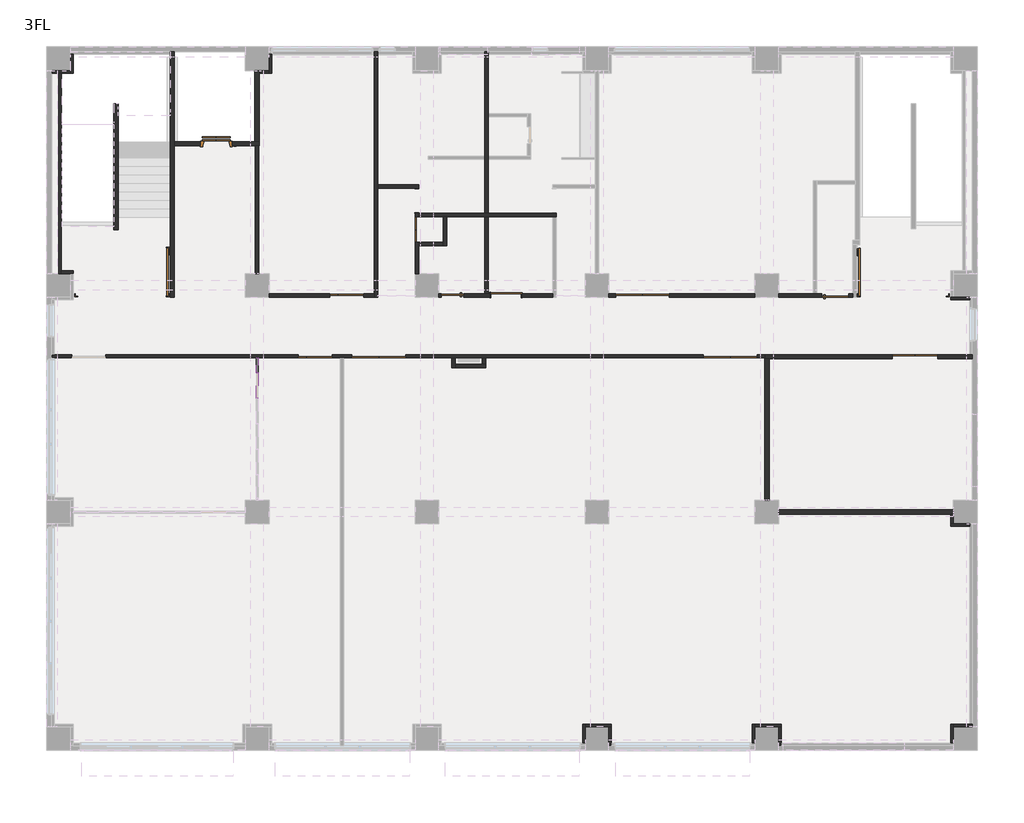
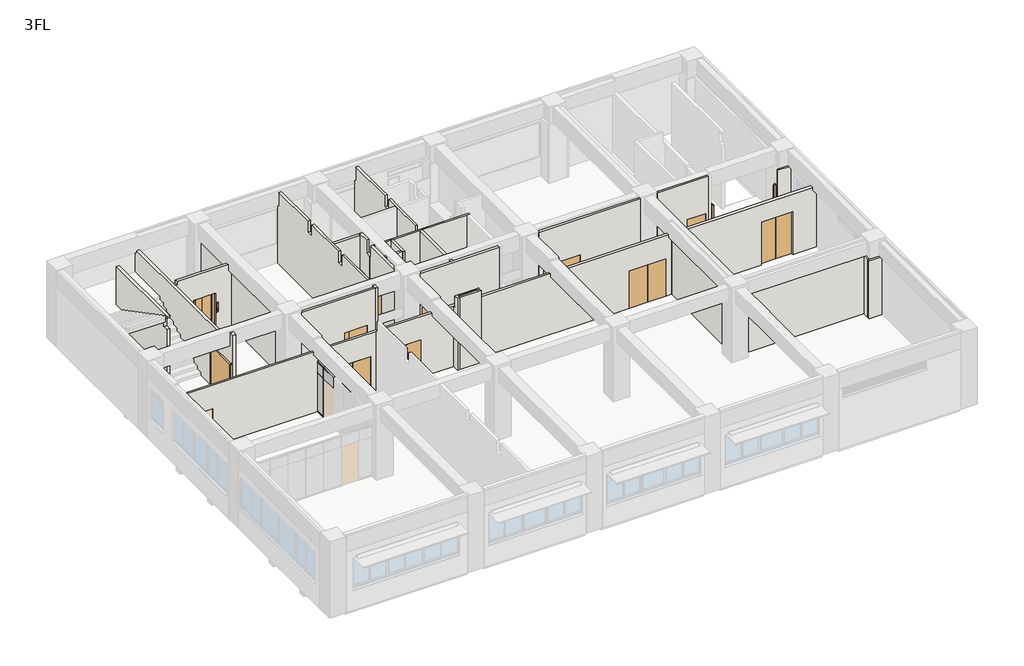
# One storey, part 2 of 6: 40 walls, 14 doors, 3 plates.
"""IFC4 building model written with IfcOpenShell, lengths in millimetres."""

from ifc_helpers import new_model, si_unit, frame, origin, place, context, project, spatial, polyline, outline, extrude, faceted_brep, transform, mapped, element, save
from components import door_c235f466, door_18b0804b, door_9fa6e922, door_14d6dc4f, door_dd0264bc, door_2816d948, door_f9cae23c, door_7458d189, door_0812e9ce, door_48d1ee04, sd12_bd36843f, sd13_d994cb3e, plate_95e3ff3d, plate_6b89f69e, plate_53a28b3e

model = new_model("IFC4")

# Units and contexts
model_context = context("Model", 3, world=origin())
ifc_project = project(units=[si_unit("LENGTHUNIT", "METRE", prefix="MILLI")], contexts=[model_context])

# Site, building, storey
site = spatial("IfcSite", under=ifc_project)
building = spatial("IfcBuilding", under=site)
storey = spatial("IfcBuildingStorey", under=building, Name="3FL", Elevation=8200.0)

# Doors
placement = place(None, origin())
door_shape = door_c235f466(model_context)
element("IfcDoor", 1, ObjectType="営_親子扉 : LD2 1200*2000", at=placement, inside=storey, context=model_context, shape_type="MappedRepresentation", body=[
    mapped(door_shape, transform((9060.0, 13500.0, 8200.0), x_axis=(1.0, 0.0, 0.0), y_axis=(0.0, 1.0, 0.0), z_axis=(0.0, 0.0, 1.0))),
])
door_2_shape = door_18b0804b(model_context)
element("IfcDoor", 2, ObjectType="営_親子扉 : LD2 1200*2000", at=placement, inside=storey, context=model_context, shape_type="MappedRepresentation", body=[
    mapped(door_2_shape, transform((10162.645491, 15640.0, 8200.0), x_axis=(1.0, 0.0, 0.0), y_axis=(0.0, 1.0, 0.0), z_axis=(0.0, 0.0, 1.0))),
])
door_3_shape = door_9fa6e922(model_context)
element("IfcDoor", 3, ObjectType="営_EVドア : EVドア", at=placement, inside=storey, context=model_context, shape_type="MappedRepresentation", body=[
    mapped(door_3_shape, transform((5560.0, 21000.0, 8200.0), x_axis=(1.0, 0.0, 0.0), y_axis=(0.0, 1.0, 0.0), z_axis=(0.0, 0.0, 1.0))),
])
door_4_shape = door_14d6dc4f(model_context)
element("IfcDoor", 4, ObjectType="営_三方枠 : S1_850*2000", at=placement, inside=storey, context=model_context, shape_type="MappedRepresentation", body=[
    mapped(door_4_shape, transform((12640.0, 18990.25, 8200.0), x_axis=(0.0, 1.0, 0.0), y_axis=(-1.0, 0.0, 0.0), z_axis=(0.0, 0.0, 1.0))),
])
door_5_shape = door_dd0264bc(model_context)
element("IfcDoor", 5, ObjectType="営_両開き扉 : SD3b 1600*2300", at=placement, inside=storey, context=model_context, shape_type="MappedRepresentation", body=[
    mapped(door_5_shape, transform((30235.0, 13480.0, 8200.0), x_axis=(1.0, 0.0, 0.0), y_axis=(0.0, 1.0, 0.0), z_axis=(0.0, 0.0, 1.0))),
])
door_6_shape = door_2816d948(model_context)
element("IfcDoor", 6, ObjectType="営_両開き扉 : LD4 1900*2000", at=placement, inside=storey, context=model_context, shape_type="MappedRepresentation", body=[
    mapped(door_6_shape, transform((20610.0, 15640.0, 8200.0), x_axis=(1.0, 0.0, 0.0), y_axis=(0.0, 1.0, 0.0), z_axis=(0.0, 0.0, 1.0))),
])
element("IfcDoor", 7, ObjectType="営_両開き扉 : LD4 1900*2000", at=placement, inside=storey, context=model_context, shape_type="MappedRepresentation", body=[
    mapped(door_6_shape, transform((11290.0, 13500.0, 8200.0), x_axis=(-1.0, 0.0, 0.0), y_axis=(0.0, -1.0, 0.0), z_axis=(0.0, 0.0, 1.0))),
])
element("IfcDoor", 8, ObjectType="営_両開き扉 : LD4 1900*2000", at=placement, inside=storey, context=model_context, shape_type="MappedRepresentation", body=[
    mapped(door_6_shape, transform((23710.0, 13500.0, 8200.0), x_axis=(-1.0, 0.0, 0.0), y_axis=(0.0, -1.0, 0.0), z_axis=(0.0, 0.0, 1.0))),
])
door_7_shape = door_f9cae23c(model_context)
element("IfcDoor", 9, ObjectType="営_両開き扉 : LD5 900*2000", at=placement, inside=storey, context=model_context, shape_type="MappedRepresentation", body=[
    mapped(door_7_shape, transform((12640.0, 17975.0, 8200.0), x_axis=(0.0, 1.0, 0.0), y_axis=(-1.0, 0.0, 0.0), z_axis=(0.0, 0.0, 1.0))),
])
door_8_shape = door_7458d189(model_context)
element("IfcDoor", 10, ObjectType="営_引戸／引込戸 : LD1 960*2000", at=placement, inside=storey, context=model_context, shape_type="MappedRepresentation", body=[
    mapped(door_8_shape, transform((15800.0, 15640.0, 8200.0), x_axis=(1.0, 0.0, 0.0), y_axis=(0.0, 1.0, 0.0), z_axis=(0.0, 0.0, 1.0))),
])
door_9_shape = door_0812e9ce(model_context)
element("IfcDoor", 11, ObjectType="営_片開き扉 : LD3 950*2000", at=placement, inside=storey, context=model_context, shape_type="MappedRepresentation", body=[
    mapped(door_9_shape, transform((27410.0, 15640.0, 8200.0), x_axis=(1.0, 0.0, 0.0), y_axis=(0.0, 1.0, 0.0), z_axis=(0.0, 0.0, 1.0))),
])
door_10_shape = door_48d1ee04(model_context)
element("IfcDoor", 12, ObjectType="営_片開き扉 : LD11 850*2000", at=placement, inside=storey, context=model_context, shape_type="MappedRepresentation", body=[
    mapped(door_10_shape, transform((13900.0, 15640.0, 8200.0), x_axis=(-1.0, 0.0, 0.0), y_axis=(0.0, -1.0, 0.0), z_axis=(0.0, 0.0, 1.0))),
])
sd12_shape = sd12_bd36843f(model_context)
element("IfcDoor", 13, ObjectType="営_随閉扉 B階段 2～4F : SD12", at=placement, inside=storey, context=model_context, shape_type="MappedRepresentation", body=[
    mapped(sd12_shape, transform((4000.0, 15640.0, 8200.0), x_axis=(0.0, -1.0, 0.0), y_axis=(1.0, 0.0, 0.0), z_axis=(0.0, 0.0, 1.0))),
])
sd13_shape = sd13_d994cb3e(model_context)
element("IfcDoor", 14, ObjectType="営_随閉扉 B階段 2～4F : SD13", at=placement, inside=storey, context=model_context, shape_type="MappedRepresentation", body=[
    mapped(sd13_shape, transform((28100.0, 15640.0, 8200.0), x_axis=(0.0, -1.0, 0.0), y_axis=(1.0, 0.0, 0.0), z_axis=(0.0, 0.0, 1.0))),
])

# Plates
plate_shape = plate_95e3ff3d(model_context)
element("IfcPlate", 15, ObjectType="営_パーティションパネル_下部 : パーティションパネル_下部", at=placement, inside=storey, context=model_context, shape_type="MappedRepresentation", body=[
    mapped(plate_shape, transform((7000.0, 13175.0000002, 8200.0), x_axis=(0.0, 1.0, 0.0), y_axis=(-1.0, 0.0, 0.0), z_axis=(0.0, 0.0, 1.0))),
])
plate_2_shape = plate_6b89f69e(model_context)
element("IfcPlate", 16, ObjectType="営_パーティションパネル_上部 : パーティションパネル_上部", at=placement, inside=storey, context=model_context, shape_type="MappedRepresentation", body=[
    mapped(plate_2_shape, transform((7000.0, 13175.0000002, 10300.0), x_axis=(0.0, 1.0, 0.0), y_axis=(-1.0, 0.0, 0.0), z_axis=(0.0, 0.0, 1.0))),
])
plate_3_shape = plate_53a28b3e(model_context)
element("IfcPlate", 17, ObjectType="営_パーティションパネル_上部 : パーティションパネル_上部", at=placement, inside=storey, context=model_context, shape_type="MappedRepresentation", body=[
    mapped(plate_3_shape, transform((7000.0, 12460.0000003, 10300.0), x_axis=(0.0, 1.0, 0.0), y_axis=(-1.0, 0.0, 0.0), z_axis=(0.0, 0.0, 1.0))),
])

# Walls
element("IfcWall", 18, ObjectType="(内壁)W3", at=placement, inside=storey, context=model_context, shape_type="Brep", body=[
    faceted_brep([(1655.0, 13440.0, 10200.0), (1655.0, 13440.0, 8200.0), (8460.0, 13440.0, 8200.0), (8460.0, 13440.0, 10200.0), (9660.0, 13440.0, 10200.0), (9660.0, 13440.0, 8200.0), (9940.0, 13440.0, 8200.0), (10060.0, 13440.0, 8200.0), (10340.0, 13440.0, 8200.0), (10340.0, 13440.0, 10200.0), (12240.0, 13440.0, 10200.0), (12240.0, 13440.0, 8200.0), (13870.0, 13440.0, 8200.0), (13990.0, 13440.0, 8200.0), (14950.0, 13440.0, 8200.0), (15070.0, 13440.0, 8200.0), (22760.0, 13440.0, 8200.0), (22760.0, 13440.0, 10200.0), (24660.0, 13440.0, 10200.0), (24660.0, 13440.0, 8200.0), (24925.0, 13440.0, 8200.0), (24925.0, 13440.0, 11300.0), (24775.0, 13440.0, 11300.0), (24775.0, 13440.0, 11450.0), (19225.0, 13440.0, 11450.0), (19225.0, 13440.0, 11300.0), (18775.0, 13440.0, 11300.0), (18775.0, 13440.0, 11450.0), (15070.0, 13440.0, 11450.0), (14950.0, 13440.0, 11450.0), (13990.0, 13440.0, 11450.0), (13870.0, 13440.0, 11450.0), (13225.0, 13440.0, 11450.0), (13225.0, 13440.0, 11300.0), (12775.0, 13440.0, 11300.0), (12775.0, 13440.0, 11450.0), (10060.0, 13440.0, 11450.0), (9940.0, 13440.0, 11450.0), (7225.0, 13440.0, 11450.0), (7225.0, 13440.0, 11300.0), (6775.0, 13440.0, 11300.0), (6775.0, 13440.0, 11450.0), (-50.0, 13440.0, 11450.0), (-50.0, 13440.0, 11300.0), (-160.0, 13440.0, 11300.0), (-250.0, 13440.0, 11300.0), (-250.0, 13440.0, 8200.0), (-160.0, 13440.0, 8200.0), (455.0, 13440.0, 8200.0), (455.0, 13440.0, 10200.0), (1655.0, 13560.0, 8200.0), (1655.0, 13560.0, 10200.0), (455.0, 13560.0, 10200.0), (455.0, 13560.0, 8200.0), (-160.0, 13560.0, 8200.0), (-250.0, 13560.0, 8200.0), (-250.0, 13560.0, 11300.0), (-160.0, 13560.0, 11300.0), (-50.0, 13560.0, 11300.0), (-50.0, 13560.0, 11450.0), (6775.0, 13560.0, 11450.0), (6775.0, 13560.0, 11300.0), (7225.0, 13560.0, 11300.0), (7225.0, 13560.0, 11450.0), (12775.0, 13560.0, 11450.0), (12775.0, 13560.0, 11300.0), (13225.0, 13560.0, 11300.0), (13225.0, 13560.0, 11450.0), (18775.0, 13560.0, 11450.0), (18775.0, 13560.0, 11300.0), (19225.0, 13560.0, 11300.0), (19225.0, 13560.0, 11450.0), (24775.0, 13560.0, 11450.0), (24775.0, 13560.0, 11300.0), (24925.0, 13560.0, 11300.0), (24925.0, 13560.0, 8200.0), (24660.0, 13560.0, 8200.0), (24660.0, 13560.0, 10200.0), (22760.0, 13560.0, 10200.0), (22760.0, 13560.0, 8200.0), (12240.0, 13560.0, 8200.0), (12240.0, 13560.0, 10200.0), (10340.0, 13560.0, 10200.0), (10340.0, 13560.0, 8200.0), (9660.0, 13560.0, 8200.0), (9660.0, 13560.0, 10200.0), (8460.0, 13560.0, 10200.0), (8460.0, 13560.0, 8200.0), (24925.0, 13555.0, 8200.0), (24925.0, 13555.0, 11300.0)], [[[0, 1, 2, 3, 4, 5, 6, 7, 8, 9, 10, 11, 12, 13, 14, 15, 16, 17, 18, 19, 20, 21, 22, 23, 24, 25, 26, 27, 28, 29, 30, 31, 32, 33, 34, 35, 36, 37, 38, 39, 40, 41, 42, 43, 44, 45, 46, 47, 48, 49]], [[50, 51, 52, 53, 54, 55, 56, 57, 58, 59, 60, 61, 62, 63, 64, 65, 66, 67, 68, 69, 70, 71, 72, 73, 74, 75, 76, 77, 78, 79, 80, 81, 82, 83, 84, 85, 86, 87]], [[1, 50, 87, 2]], [[5, 84, 83, 8, 7, 6]], [[11, 80, 79, 16, 15, 14, 13, 12]], [[19, 76, 75, 88, 20]], [[46, 55, 54, 53, 48, 47]], [[59, 42, 41, 60]], [[63, 38, 37, 36, 35, 64]], [[67, 32, 31, 30, 29, 28, 27, 68]], [[71, 24, 23, 72]], [[55, 46, 45, 56]], [[1, 0, 51, 50]], [[49, 48, 53, 52]], [[0, 49, 52, 51]], [[87, 86, 3, 2]], [[85, 84, 5, 4]], [[86, 85, 4, 3]], [[11, 10, 81, 80]], [[9, 8, 83, 82]], [[10, 9, 82, 81]], [[19, 18, 77, 76]], [[17, 16, 79, 78]], [[18, 17, 78, 77]], [[20, 88, 75, 74, 89, 21]], [[58, 43, 42, 59]], [[43, 58, 57, 56, 45, 44]], [[62, 39, 38, 63]], [[39, 62, 61, 40]], [[40, 61, 60, 41]], [[66, 33, 32, 67]], [[33, 66, 65, 34]], [[34, 65, 64, 35]], [[70, 25, 24, 71]], [[25, 70, 69, 26]], [[26, 69, 68, 27]], [[73, 22, 21, 89, 74]], [[22, 73, 72, 23]]]),
])
element("IfcWall", 19, ObjectType="(内壁)150_RC", at=placement, inside=storey, context=model_context, shape_type="Brep", body=[
    faceted_brep([(24925.0, 13555.0, 11300.0), (25225.0, 13555.0, 11300.0), (25225.0, 13555.0, 11450.0), (32050.0, 13555.0, 11450.0), (32050.0, 13555.0, 11300.0), (32250.0, 13555.0, 11300.0), (32250.0, 13555.0, 8200.0), (31035.0, 13555.0, 8200.0), (31035.0, 13555.0, 10500.0), (29435.0, 13555.0, 10500.0), (29435.0, 13555.0, 8200.0), (24925.0, 13555.0, 8200.0), (25225.0, 13405.0, 11300.0), (25075.0, 13405.0, 11300.0), (24925.0, 13405.0, 11300.0), (24925.0, 13405.0, 8200.0), (25075.0, 13405.0, 8200.0), (29435.0, 13405.0, 8200.0), (29435.0, 13405.0, 10500.0), (31035.0, 13405.0, 10500.0), (31035.0, 13405.0, 8200.0), (32250.0, 13405.0, 8200.0), (32250.0, 13405.0, 11300.0), (32050.0, 13405.0, 11300.0), (32050.0, 13405.0, 11450.0), (25225.0, 13405.0, 11450.0), (24925.0, 13440.0, 8200.0), (24925.0, 13440.0, 11300.0)], [[[0, 1, 2, 3, 4, 5, 6, 7, 8, 9, 10, 11]], [[12, 13, 14, 15, 16, 17, 18, 19, 20, 21, 22, 23, 24, 25]], [[15, 26, 11, 10, 17, 16]], [[6, 21, 20, 7]], [[21, 6, 5, 22]], [[1, 12, 25, 2]], [[12, 1, 0, 27, 14, 13]], [[4, 23, 22, 5]], [[23, 4, 3, 24]], [[10, 9, 18, 17]], [[8, 7, 20, 19]], [[9, 8, 19, 18]], [[11, 26, 15, 14, 27, 0]], [[3, 2, 25, 24]]]),
])
element("IfcWall", 20, ObjectType="(内壁)150_RC", at=placement, inside=storey, context=model_context, shape_type="SweptSolid", body=[
    extrude(outline(polyline([(24925.0, 13405.0), (25075.0, 13405.0), (25075.0, 8420.0), (24925.0, 8420.0), (24925.0, 13405.0)])), frame((0.0, 0.0, 8200.0), z_axis=(0.0, 0.0, 1.0), x_axis=(1.0, 0.0, 0.0)), (0.0, 0.0, 1.0), 3100.0),
])
element("IfcWall", 21, ObjectType="(内壁)150_RC", at=placement, inside=storey, context=model_context, shape_type="Brep", body=[
    faceted_brep([(25420.0, 7925.0, 8200.0), (31580.0, 7925.0, 8200.0), (31580.0, 7925.0, 11300.0), (31580.0, 7925.0, 11350.0), (25420.0, 7925.0, 11350.0), (31580.0, 8075.0, 8200.0), (25420.0, 8075.0, 8200.0), (25420.0, 8075.0, 11350.0), (31580.0, 8075.0, 11350.0)], [[[0, 1, 2, 3, 4]], [[5, 6, 7, 8]], [[0, 6, 5, 1]], [[6, 0, 4, 7]], [[1, 5, 8, 3, 2]], [[4, 3, 8, 7]]]),
])
element("IfcWall", 22, ObjectType="(内壁)150_RC", at=placement, inside=storey, context=model_context, shape_type="Brep", body=[
    faceted_brep([(3925.0, 24250.0, 8200.0), (3925.0, 15580.0, 8200.0), (3925.0, 15580.0, 12050.0), (3925.0, 15825.0, 12050.0), (3925.0, 15825.0, 11450.0), (3925.0, 24050.0, 11450.0), (3925.0, 24050.0, 11350.0), (3925.0, 24250.0, 11350.0), (4075.0, 15580.0, 8200.0), (4075.0, 20925.0, 8200.0), (4075.0, 21075.0, 8200.0), (4075.0, 24250.0, 8200.0), (4075.0, 24250.0, 11350.0), (4075.0, 24050.0, 11350.0), (4075.0, 24050.0, 11450.0), (4075.0, 21075.0, 11450.0), (4075.0, 20925.0, 11450.0), (4075.0, 15825.0, 11450.0), (4075.0, 15825.0, 12050.0), (4075.0, 15580.0, 12050.0)], [[[0, 1, 2, 3, 4, 5, 6, 7]], [[8, 9, 10, 11, 12, 13, 14, 15, 16, 17, 18, 19]], [[1, 0, 11, 10, 9, 8]], [[2, 1, 8, 19]], [[2, 19, 18, 3]], [[11, 0, 7, 12]], [[13, 6, 5, 14]], [[6, 13, 12, 7]], [[4, 17, 16, 15, 14, 5]], [[17, 4, 3, 18]]]),
])
element("IfcWall", 23, ObjectType="(内壁)150_RC", at=placement, inside=storey, context=model_context, shape_type="Brep", body=[
    faceted_brep([(7075.0, 20925.0, 11300.0), (7060.0, 20925.0, 11300.0), (6940.0, 20925.0, 11300.0), (6775.0, 20925.0, 11300.0), (6775.0, 20925.0, 11600.0), (4175.0, 20925.0, 11600.0), (4175.0, 20925.0, 11450.0), (4075.0, 20925.0, 11450.0), (4075.0, 20925.0, 8200.0), (5000.0, 20925.0, 8200.0), (5000.0, 20925.0, 10300.0), (6120.0, 20925.0, 10300.0), (6120.0, 20925.0, 8200.0), (6940.0, 20925.0, 8200.0), (7060.0, 20925.0, 8200.0), (7075.0, 20925.0, 8200.0), (6775.0, 21075.0, 11300.0), (6925.0, 21075.0, 11300.0), (7075.0, 21075.0, 11300.0), (7075.0, 21075.0, 8200.0), (6925.0, 21075.0, 8200.0), (6120.0, 21075.0, 8200.0), (6120.0, 21075.0, 10300.0), (5000.0, 21075.0, 10300.0), (5000.0, 21075.0, 8200.0), (4075.0, 21075.0, 8200.0), (4075.0, 21075.0, 11450.0), (4175.0, 21075.0, 11450.0), (4175.0, 21075.0, 11600.0), (6775.0, 21075.0, 11600.0)], [[[0, 1, 2, 3, 4, 5, 6, 7, 8, 9, 10, 11, 12, 13, 14, 15]], [[16, 17, 18, 19, 20, 21, 22, 23, 24, 25, 26, 27, 28, 29]], [[19, 15, 14, 13, 12, 21, 20]], [[8, 25, 24, 9]], [[15, 19, 18, 0]], [[25, 8, 7, 26]], [[16, 3, 2, 1, 0, 18, 17]], [[3, 16, 29, 4]], [[24, 23, 10, 9]], [[22, 21, 12, 11]], [[23, 22, 11, 10]], [[4, 29, 28, 5]], [[27, 6, 5, 28]], [[6, 27, 26, 7]]]),
])
element("IfcWall", 24, ObjectType="(内壁)150_RC", at=placement, inside=storey, context=model_context, shape_type="Brep", body=[
    faceted_brep([(7075.0, 21075.0, 8200.0), (7075.0, 23490.0, 8200.0), (7075.0, 23580.0, 8200.0), (7075.0, 23580.0, 11300.0), (7075.0, 23490.0, 11300.0), (7075.0, 21075.0, 11300.0), (6925.0, 23580.0, 8200.0), (6925.0, 21075.0, 8200.0), (6925.0, 21075.0, 11300.0), (6925.0, 23580.0, 11300.0)], [[[0, 1, 2, 3, 4, 5]], [[6, 7, 8, 9]], [[0, 7, 6, 2, 1]], [[7, 0, 5, 8]], [[2, 6, 9, 3]], [[5, 4, 3, 9, 8]]]),
])
element("IfcWall", 25, ObjectType="(内壁)W4", at=placement, inside=storey, context=model_context, shape_type="SweptSolid", body=[
    extrude(outline(polyline([(6940.0, 20925.0), (7060.0, 20925.0), (7060.0, 16420.0), (6940.0, 16420.0), (6940.0, 20925.0)])), frame((0.0, 0.0, 8200.0), z_axis=(0.0, 0.0, 1.0), x_axis=(1.0, 0.0, 0.0)), (0.0, 0.0, 1.0), 3100.0),
])
element("IfcWall", 26, ObjectType="(内壁)W3", at=placement, inside=storey, context=model_context, shape_type="Brep", body=[
    faceted_brep([(19660.0, 15700.0, 10200.0), (19660.0, 15700.0, 8200.0), (19420.0, 15700.0, 8200.0), (19420.0, 15700.0, 12140.0), (24580.0, 15700.0, 12140.0), (24580.0, 15700.0, 8200.0), (21560.0, 15700.0, 8200.0), (21560.0, 15700.0, 10200.0), (19660.0, 15580.0, 8200.0), (19660.0, 15580.0, 10200.0), (21560.0, 15580.0, 10200.0), (21560.0, 15580.0, 8200.0), (24580.0, 15580.0, 8200.0), (24580.0, 15580.0, 12140.0), (19420.0, 15580.0, 12140.0), (19420.0, 15580.0, 8200.0)], [[[0, 1, 2, 3, 4, 5, 6, 7]], [[8, 9, 10, 11, 12, 13, 14, 15]], [[1, 8, 15, 2]], [[11, 6, 5, 12]], [[3, 14, 13, 4]], [[1, 0, 9, 8]], [[7, 6, 11, 10]], [[0, 7, 10, 9]], [[3, 2, 15, 14]], [[5, 4, 13, 12]]]),
    faceted_brep([(26935.0, 15700.0, 10200.0), (26935.0, 15700.0, 8200.0), (26760.0, 15700.0, 8200.0), (26640.0, 15700.0, 8200.0), (25420.0, 15700.0, 8200.0), (25420.0, 15700.0, 12140.0), (28025.0, 15700.0, 12140.0), (28025.0, 15700.0, 8200.0), (27885.0, 15700.0, 8200.0), (27885.0, 15700.0, 10200.0), (26935.0, 15580.0, 8200.0), (26935.0, 15580.0, 10200.0), (27885.0, 15580.0, 10200.0), (27885.0, 15580.0, 8200.0), (28025.0, 15580.0, 8200.0), (28025.0, 15580.0, 12050.0), (28025.0, 15580.0, 12140.0), (25420.0, 15580.0, 12140.0), (25420.0, 15580.0, 8200.0)], [[[0, 1, 2, 3, 4, 5, 6, 7, 8, 9]], [[10, 11, 12, 13, 14, 15, 16, 17, 18]], [[1, 10, 18, 4, 3, 2]], [[13, 8, 7, 14]], [[16, 6, 5, 17]], [[1, 0, 11, 10]], [[9, 8, 13, 12]], [[0, 9, 12, 11]], [[5, 4, 18, 17]], [[7, 6, 16, 15, 14]]]),
])
element("IfcWall", 27, ObjectType="(内壁)W4", at=placement, inside=storey, context=model_context, shape_type="Brep", body=[
    faceted_brep([(11140.0, 24250.0, 8200.0), (11140.0, 15700.0, 8200.0), (11140.0, 15580.0, 8200.0), (11140.0, 15580.0, 12050.0), (11140.0, 15700.0, 12050.0), (11140.0, 15825.0, 12050.0), (11140.0, 15825.0, 11350.0), (11140.0, 16175.0, 11350.0), (11140.0, 16175.0, 12050.0), (11140.0, 18495.0, 12050.0), (11140.0, 18495.0, 11450.0), (11140.0, 18845.0, 11450.0), (11140.0, 18845.0, 12050.0), (11140.0, 21165.0, 12050.0), (11140.0, 21165.0, 11450.0), (11140.0, 21515.0, 11450.0), (11140.0, 21515.0, 12050.0), (11140.0, 24050.0, 12050.0), (11140.0, 24050.0, 11350.0), (11140.0, 24250.0, 11350.0), (11260.0, 15580.0, 8200.0), (11260.0, 19430.0, 8200.0), (11260.0, 19550.0, 8200.0), (11260.0, 24250.0, 8200.0), (11260.0, 24250.0, 11350.0), (11260.0, 24050.0, 11350.0), (11260.0, 24050.0, 12050.0), (11260.0, 21515.0, 12050.0), (11260.0, 21515.0, 11450.0), (11260.0, 21165.0, 11450.0), (11260.0, 21165.0, 12050.0), (11260.0, 19550.0, 12050.0), (11260.0, 19430.0, 12050.0), (11260.0, 18845.0, 12050.0), (11260.0, 18845.0, 11450.0), (11260.0, 18495.0, 11450.0), (11260.0, 18495.0, 12050.0), (11260.0, 16175.0, 12050.0), (11260.0, 16175.0, 11350.0), (11260.0, 15825.0, 11350.0), (11260.0, 15825.0, 12050.0), (11260.0, 15580.0, 12050.0)], [[[0, 1, 2, 3, 4, 5, 6, 7, 8, 9, 10, 11, 12, 13, 14, 15, 16, 17, 18, 19]], [[20, 21, 22, 23, 24, 25, 26, 27, 28, 29, 30, 31, 32, 33, 34, 35, 36, 37, 38, 39, 40, 41]], [[2, 1, 0, 23, 22, 21, 20]], [[8, 37, 36, 9]], [[26, 17, 16, 27]], [[5, 4, 3, 41, 40]], [[12, 33, 32, 31, 30, 13]], [[23, 0, 19, 24]], [[39, 6, 5, 40]], [[6, 39, 38, 7]], [[7, 38, 37, 8]], [[25, 18, 17, 26]], [[18, 25, 24, 19]], [[35, 10, 9, 36]], [[10, 35, 34, 11]], [[11, 34, 33, 12]], [[29, 14, 13, 30]], [[14, 29, 28, 15]], [[15, 28, 27, 16]], [[3, 2, 20, 41]]]),
])
element("IfcWall", 28, ObjectType="(内壁)W4", at=placement, inside=storey, context=model_context, shape_type="Brep", body=[
    faceted_brep([(12700.0, 17525.0, 8200.0), (12700.0, 17525.0, 10200.0), (12700.0, 18425.0, 10200.0), (12700.0, 18425.0, 8200.0), (12700.0, 18430.0, 8200.0), (12700.0, 18550.0, 8200.0), (12700.0, 18550.0, 11450.0), (12700.0, 18495.0, 11450.0), (12700.0, 18495.0, 12050.0), (12700.0, 18430.0, 12050.0), (12700.0, 17520.0, 12050.0), (12700.0, 17400.0, 12050.0), (12700.0, 16420.0, 12050.0), (12700.0, 16420.0, 8200.0), (12700.0, 17400.0, 8200.0), (12700.0, 17520.0, 8200.0), (12580.0, 17525.0, 10200.0), (12580.0, 17525.0, 8200.0), (12580.0, 16420.0, 8200.0), (12580.0, 16420.0, 12050.0), (12580.0, 18495.0, 12050.0), (12580.0, 18495.0, 11450.0), (12580.0, 18550.0, 11450.0), (12580.0, 18550.0, 8200.0), (12580.0, 18425.0, 8200.0), (12580.0, 18425.0, 10200.0)], [[[0, 1, 2, 3, 4, 5, 6, 7, 8, 9, 10, 11, 12, 13, 14, 15]], [[16, 17, 18, 19, 20, 21, 22, 23, 24, 25]], [[17, 0, 15, 14, 13, 18]], [[23, 5, 4, 3, 24]], [[19, 12, 11, 10, 9, 8, 20]], [[5, 23, 22, 6]], [[17, 16, 1, 0]], [[25, 24, 3, 2]], [[16, 25, 2, 1]], [[13, 12, 19, 18]], [[7, 21, 20, 8]], [[21, 7, 6, 22]]]),
])
element("IfcWall", 29, ObjectType="(内壁)W4", at=placement, inside=storey, context=model_context, shape_type="Brep", body=[
    faceted_brep([(12700.0, 18430.0, 8200.0), (13570.0, 18430.0, 8200.0), (13690.0, 18430.0, 8200.0), (15040.0, 18430.0, 8200.0), (15160.0, 18430.0, 8200.0), (17440.0, 18430.0, 8200.0), (17560.0, 18430.0, 8200.0), (17560.0, 18430.0, 12050.0), (17440.0, 18430.0, 12050.0), (15160.0, 18430.0, 12050.0), (15040.0, 18430.0, 12050.0), (13690.0, 18430.0, 12050.0), (13570.0, 18430.0, 12050.0), (13225.0, 18430.0, 12050.0), (13225.0, 18430.0, 11300.0), (12775.0, 18430.0, 11300.0), (12775.0, 18430.0, 12050.0), (12700.0, 18430.0, 12050.0), (17560.0, 18550.0, 8200.0), (17440.0, 18550.0, 8200.0), (15160.0, 18550.0, 8200.0), (15040.0, 18550.0, 8200.0), (12700.0, 18550.0, 8200.0), (12700.0, 18550.0, 11450.0), (12775.0, 18550.0, 11450.0), (12775.0, 18550.0, 11300.0), (13225.0, 18550.0, 11300.0), (13225.0, 18550.0, 11450.0), (15040.0, 18550.0, 11450.0), (15160.0, 18550.0, 11450.0), (17440.0, 18550.0, 11450.0), (17560.0, 18550.0, 11450.0), (12775.0, 18495.0, 12050.0), (12700.0, 18495.0, 12050.0), (17560.0, 18495.0, 12050.0), (13225.0, 18495.0, 12050.0), (12700.0, 18495.0, 11450.0), (17560.0, 18495.0, 11450.0), (13225.0, 18495.0, 11450.0), (12775.0, 18495.0, 11450.0)], [[[0, 1, 2, 3, 4, 5, 6, 7, 8, 9, 10, 11, 12, 13, 14, 15, 16, 17]], [[18, 19, 20, 21, 22, 23, 24, 25, 26, 27, 28, 29, 30, 31]], [[6, 5, 4, 3, 2, 1, 0, 22, 21, 20, 19, 18]], [[17, 16, 32, 33]], [[13, 12, 11, 10, 9, 8, 7, 34, 35]], [[0, 17, 33, 36, 23, 22]], [[7, 6, 18, 31, 37, 34]], [[26, 14, 13, 35, 38, 27]], [[14, 26, 25, 15]], [[15, 25, 24, 39, 32, 16]], [[37, 38, 35, 34]], [[38, 37, 31, 30, 29, 28, 27]], [[39, 36, 33, 32]], [[36, 39, 24, 23]]]),
])
element("IfcWall", 30, ObjectType="(内壁)W3", at=placement, inside=storey, context=model_context, shape_type="Brep", body=[
    faceted_brep([(13690.0, 17400.0, 8200.0), (13690.0, 18430.0, 8200.0), (13690.0, 18430.0, 12050.0), (13690.0, 17400.0, 12050.0), (13570.0, 17400.0, 8200.0), (13570.0, 17400.0, 12050.0), (13570.0, 17520.0, 12050.0), (13570.0, 18430.0, 12050.0), (13570.0, 18430.0, 8200.0), (13570.0, 17520.0, 8200.0)], [[[0, 1, 2, 3]], [[4, 5, 6, 7, 8, 9]], [[1, 0, 4, 9, 8]], [[3, 2, 7, 6, 5]], [[2, 1, 8, 7]], [[0, 3, 5, 4]]]),
])
element("IfcWall", 31, ObjectType="(内壁)W4", at=placement, inside=storey, context=model_context, shape_type="Brep", body=[
    faceted_brep([(11260.0, 19430.0, 8200.0), (12580.0, 19430.0, 8200.0), (12700.0, 19430.0, 8200.0), (12700.0, 19430.0, 12050.0), (11260.0, 19430.0, 12050.0), (11260.0, 19550.0, 8200.0), (11260.0, 19550.0, 12050.0), (12700.0, 19550.0, 12050.0), (12700.0, 19550.0, 8200.0)], [[[0, 1, 2, 3, 4]], [[5, 6, 7, 8]], [[2, 1, 0, 5, 8]], [[4, 3, 7, 6]], [[0, 4, 6, 5]], [[3, 2, 8, 7]]]),
])
element("IfcWall", 32, ObjectType="(内壁)W4", at=placement, inside=storey, context=model_context, shape_type="Brep", body=[
    faceted_brep([(15040.0, 15700.0, 8200.0), (15040.0, 15700.0, 12050.0), (15040.0, 15825.0, 12050.0), (15040.0, 15825.0, 11350.0), (15040.0, 16175.0, 11350.0), (15040.0, 16175.0, 12050.0), (15040.0, 18430.0, 12050.0), (15040.0, 18430.0, 8200.0), (15160.0, 15700.0, 12050.0), (15160.0, 15700.0, 8200.0), (15160.0, 18430.0, 8200.0), (15160.0, 18430.0, 12050.0), (15160.0, 16175.0, 12050.0), (15160.0, 16175.0, 11350.0), (15160.0, 15825.0, 11350.0), (15160.0, 15825.0, 12050.0)], [[[0, 1, 2, 3, 4, 5, 6, 7]], [[8, 9, 10, 11, 12, 13, 14, 15]], [[9, 0, 7, 10]], [[1, 8, 15, 2]], [[11, 6, 5, 12]], [[1, 0, 9, 8]], [[7, 6, 11, 10]], [[14, 3, 2, 15]], [[3, 14, 13, 4]], [[4, 13, 12, 5]]]),
    faceted_brep([(15040.0, 24250.0, 8200.0), (15040.0, 24160.0, 8200.0), (15040.0, 20570.0, 8200.0), (15040.0, 20450.0, 8200.0), (15040.0, 18550.0, 8200.0), (15040.0, 18550.0, 11450.0), (15040.0, 18845.0, 11450.0), (15040.0, 18845.0, 12050.0), (15040.0, 20450.0, 12050.0), (15040.0, 20570.0, 12050.0), (15040.0, 21165.0, 12050.0), (15040.0, 21165.0, 11450.0), (15040.0, 21515.0, 11450.0), (15040.0, 21515.0, 12050.0), (15040.0, 24050.0, 12050.0), (15040.0, 24050.0, 11350.0), (15040.0, 24250.0, 11350.0), (15040.0, 24250.0, 11300.0), (15160.0, 18550.0, 8200.0), (15160.0, 20450.0, 8200.0), (15160.0, 20570.0, 8200.0), (15160.0, 21950.0, 8200.0), (15160.0, 22070.0, 8200.0), (15160.0, 24160.0, 8200.0), (15160.0, 24250.0, 8200.0), (15160.0, 24250.0, 11300.0), (15160.0, 24250.0, 11350.0), (15160.0, 24050.0, 11350.0), (15160.0, 24050.0, 12050.0), (15160.0, 22070.0, 12050.0), (15160.0, 21950.0, 12050.0), (15160.0, 21515.0, 12050.0), (15160.0, 21515.0, 11450.0), (15160.0, 21165.0, 11450.0), (15160.0, 21165.0, 12050.0), (15160.0, 20570.0, 12050.0), (15160.0, 20450.0, 12050.0), (15160.0, 18845.0, 12050.0), (15160.0, 18845.0, 11450.0), (15160.0, 18550.0, 11450.0)], [[[0, 1, 2, 3, 4, 5, 6, 7, 8, 9, 10, 11, 12, 13, 14, 15, 16, 17]], [[18, 19, 20, 21, 22, 23, 24, 25, 26, 27, 28, 29, 30, 31, 32, 33, 34, 35, 36, 37, 38, 39]], [[0, 24, 23, 22, 21, 20, 19, 18, 4, 3, 2, 1]], [[28, 14, 13, 31, 30, 29]], [[7, 37, 36, 35, 34, 10, 9, 8]], [[24, 0, 17, 16, 26, 25]], [[4, 18, 39, 5]], [[27, 15, 14, 28]], [[15, 27, 26, 16]], [[38, 6, 5, 39]], [[6, 38, 37, 7]], [[33, 11, 10, 34]], [[11, 33, 32, 12]], [[12, 32, 31, 13]]]),
])
element("IfcWall", 33, ObjectType="(内壁)W3", at=placement, inside=storey, context=model_context, shape_type="SweptSolid", body=[
    extrude(outline(polyline([(8200.0, 12700.0), (8200.0, 13570.0), (12050.0, 13570.0), (12050.0, 13225.0), (11300.0, 13225.0), (11300.0, 12775.0), (12050.0, 12775.0), (12050.0, 12700.0), (8200.0, 12700.0)])), frame((0.0, 17400.0, 0.0), z_axis=(0.0, 1.0, 0.0), x_axis=(0.0, 0.0, 1.0)), (0.0, 0.0, 1.0), 120.0),
])
element("IfcWall", 34, ObjectType="(内壁)W4", at=placement, inside=storey, context=model_context, shape_type="SweptSolid", body=[
    extrude(outline(polyline([(10200.0, 9562.645491), (10200.0, 10762.645491), (8200.0, 10762.645491), (8200.0, 11140.0), (12050.0, 11140.0), (12050.0, 7420.0), (8200.0, 7420.0), (8200.0, 9562.645491), (10200.0, 9562.645491)])), frame((0.0, 15580.0, 0.0), z_axis=(0.0, 1.0, 0.0), x_axis=(0.0, 0.0, 1.0)), (0.0, 0.0, 1.0), 120.0),
])
element("IfcWall", 35, ObjectType="(内壁)W4", at=placement, inside=storey, context=model_context, shape_type="Brep", body=[
    faceted_brep([(15220.0, 15700.0, 10225.0), (15220.0, 15700.0, 8200.0), (15160.0, 15700.0, 8200.0), (15040.0, 15700.0, 8200.0), (14300.0, 15700.0, 8200.0), (14300.0, 15700.0, 10200.0), (13500.0, 15700.0, 10200.0), (13500.0, 15700.0, 8200.0), (13420.0, 15700.0, 8200.0), (13420.0, 15700.0, 12050.0), (15040.0, 15700.0, 12050.0), (15160.0, 15700.0, 12050.0), (17440.0, 15700.0, 12050.0), (17440.0, 15700.0, 8200.0), (16355.0, 15700.0, 8200.0), (16355.0, 15700.0, 10225.0), (16355.0, 15580.0, 8200.0), (17440.0, 15580.0, 8200.0), (17440.0, 15580.0, 12050.0), (13420.0, 15580.0, 12050.0), (13420.0, 15580.0, 8200.0), (13500.0, 15580.0, 8200.0), (13500.0, 15580.0, 10200.0), (14300.0, 15580.0, 10200.0), (14300.0, 15580.0, 8200.0), (15220.0, 15580.0, 8200.0), (15220.0, 15580.0, 10225.0), (16355.0, 15580.0, 10225.0)], [[[0, 1, 2, 3, 4, 5, 6, 7, 8, 9, 10, 11, 12, 13, 14, 15]], [[16, 17, 18, 19, 20, 21, 22, 23, 24, 25, 26, 27]], [[17, 16, 14, 13]], [[1, 25, 24, 4, 3, 2]], [[7, 21, 20, 8]], [[18, 12, 11, 10, 9, 19]], [[0, 26, 25, 1]], [[27, 15, 14, 16]], [[26, 0, 15, 27]], [[9, 8, 20, 19]], [[24, 23, 5, 4]], [[22, 21, 7, 6]], [[23, 22, 6, 5]], [[13, 12, 18, 17]]]),
])
element("IfcWall", 36, ObjectType="(内壁)120_部屋境界OFF", at=placement, inside=storey, context=model_context, shape_type="Brep", body=[
    faceted_brep([(12700.0, 18550.0, 8200.0), (12700.0, 18555.25, 8200.0), (12700.0, 18555.25, 10210.0), (12700.0, 19425.25, 10210.0), (12700.0, 19425.25, 8200.0), (12700.0, 19430.0, 8200.0), (12700.0, 19430.0, 12050.0), (12700.0, 19430.0, 12150.0), (12700.0, 18845.0, 12150.0), (12700.0, 18845.0, 11450.0), (12700.0, 18550.0, 11450.0), (12580.0, 18555.25, 8200.0), (12580.0, 18550.0, 8200.0), (12580.0, 18550.0, 11450.0), (12580.0, 18845.0, 11450.0), (12580.0, 18845.0, 12150.0), (12580.0, 19430.0, 12150.0), (12580.0, 19430.0, 8200.0), (12580.0, 19425.25, 8200.0), (12580.0, 19425.25, 10210.0), (12580.0, 18555.25, 10210.0)], [[[0, 1, 2, 3, 4, 5, 6, 7, 8, 9, 10]], [[11, 12, 13, 14, 15, 16, 17, 18, 19, 20]], [[12, 11, 1, 0]], [[5, 4, 18, 17]], [[7, 16, 15, 8]], [[12, 0, 10, 13]], [[20, 2, 1, 11]], [[2, 20, 19, 3]], [[3, 19, 18, 4]], [[7, 6, 5, 17, 16]], [[9, 14, 13, 10]], [[14, 9, 8, 15]]]),
])
element("IfcWall", 37, ObjectType="(内壁)150_RC", at=placement, inside=storey, context=model_context, shape_type="SweptSolid", body=[
    extrude(outline(polyline([(22410.0, 8200.0), (17975.0, 8200.0), (17975.0, 11600.0), (18225.0, 11600.0), (18225.0, 12200.0), (17975.0, 12200.0), (17975.0, 12300.0), (22410.0, 12300.0), (22410.0, 8200.0)])), frame((1945.0, 0.0, 0.0), z_axis=(1.0, 0.0, 0.0), x_axis=(0.0, 1.0, 0.0)), (0.0, 0.0, 1.0), 150.0),
])
element("IfcWall", 38, ObjectType="(内壁)W5", at=placement, inside=storey, context=model_context, shape_type="Brep", body=[
    faceted_brep([(32160.0, 15580.0, 8200.0), (31580.0, 15580.0, 8200.0), (31490.0, 15580.0, 8200.0), (31490.0, 15580.0, 11300.0), (31580.0, 15580.0, 11300.0), (32160.0, 15580.0, 11300.0), (32160.0, 15490.0, 8200.0), (32160.0, 15490.0, 11300.0), (31490.0, 15490.0, 11300.0), (31490.0, 15490.0, 8200.0)], [[[0, 1, 2, 3, 4, 5]], [[6, 7, 8, 9]], [[2, 1, 0, 6, 9]], [[5, 4, 3, 8, 7]], [[0, 5, 7, 6]], [[3, 2, 9, 8]]]),
])
element("IfcWall", 39, ObjectType="(内壁)W5", at=placement, inside=storey, context=model_context, shape_type="Brep", body=[
    faceted_brep([(7420.0, 24160.6075581, 8200.0), (7420.0, 23580.0, 8200.0), (7420.0, 23490.0, 8200.0), (7420.0, 23490.0, 11300.0), (7420.0, 23580.0, 11300.0), (7420.0, 24160.6075581, 11300.0), (7510.0, 24160.6075581, 8200.0), (7510.0, 24160.6075581, 9265.0), (7510.0, 24160.6075581, 11120.0), (7510.0, 24160.6075581, 11300.0), (7510.0, 23490.0, 11300.0), (7510.0, 23490.0, 8200.0)], [[[0, 1, 2, 3, 4, 5]], [[6, 7, 8, 9, 10, 11]], [[2, 1, 0, 6, 11]], [[5, 4, 3, 10, 9]], [[0, 5, 9, 8, 7, 6]], [[3, 2, 11, 10]]]),
])
element("IfcWall", 40, ObjectType="(内壁)W5", at=placement, inside=storey, context=model_context, shape_type="SweptSolid", body=[
    extrude(outline(polyline([(7075.0, 23580.0), (7420.0, 23580.0), (7420.0, 23490.0), (7075.0, 23490.0), (7075.0, 23580.0)])), frame((0.0, 0.0, 8200.0), z_axis=(0.0, 0.0, 1.0), x_axis=(1.0, 0.0, 0.0)), (0.0, 0.0, 1.0), 3100.0),
])
element("IfcWall", 41, ObjectType="(内壁)W5", at=placement, inside=storey, context=model_context, shape_type="Brep", body=[
    faceted_brep([(420.0, 24160.0, 8200.0), (420.0, 23580.0, 8200.0), (420.0, 23490.0, 8200.0), (420.0, 23490.0, 11300.0), (420.0, 23580.0, 11300.0), (420.0, 24160.0, 11300.0), (510.0, 24160.0, 8200.0), (510.0, 24160.0, 11300.0), (510.0, 23490.0, 11300.0), (510.0, 23490.0, 8200.0)], [[[0, 1, 2, 3, 4, 5]], [[6, 7, 8, 9]], [[2, 1, 0, 6, 9]], [[5, 4, 3, 8, 7]], [[0, 5, 7, 6]], [[3, 2, 9, 8]]]),
])
element("IfcWall", 42, ObjectType="(内壁)W5", at=placement, inside=storey, context=model_context, shape_type="Brep", body=[
    faceted_brep([(420.0, 23580.0, 8200.0), (-250.0, 23580.0, 8200.0), (-250.0, 23580.0, 11300.0), (420.0, 23580.0, 11300.0), (420.0, 23490.0, 8200.0), (420.0, 23490.0, 11300.0), (90.0, 23490.0, 11300.0), (0.0, 23490.0, 11300.0), (-250.0, 23490.0, 11300.0), (-250.0, 23490.0, 8200.0), (0.0, 23490.0, 8200.0), (90.0, 23490.0, 8200.0)], [[[0, 1, 2, 3]], [[4, 5, 6, 7, 8, 9, 10, 11]], [[1, 0, 4, 11, 10, 9]], [[3, 2, 8, 7, 6, 5]], [[0, 3, 5, 4]], [[2, 1, 9, 8]]]),
])
element("IfcWall", 43, ObjectType="(内壁)W5", at=placement, inside=storey, context=model_context, shape_type="Brep", body=[
    faceted_brep([(0.0, 23490.0, 8200.0), (0.0, 16420.0, 8200.0), (0.0, 16420.0, 11300.0), (0.0, 23490.0, 11300.0), (90.0, 23490.0, 8200.0), (90.0, 23490.0, 11300.0), (90.0, 16510.0, 11300.0), (90.0, 16420.0, 11300.0), (90.0, 16420.0, 8200.0), (90.0, 16510.0, 8200.0)], [[[0, 1, 2, 3]], [[4, 5, 6, 7, 8, 9]], [[1, 0, 4, 9, 8]], [[3, 2, 7, 6, 5]], [[0, 3, 5, 4]], [[2, 1, 8, 7]]]),
])
element("IfcWall", 44, ObjectType="(内壁)W5", at=placement, inside=storey, context=model_context, shape_type="Brep", body=[
    faceted_brep([(90.0, 16420.0, 8200.0), (420.0, 16420.0, 8200.0), (510.0, 16420.0, 8200.0), (510.0, 16420.0, 11300.0), (420.0, 16420.0, 11300.0), (90.0, 16420.0, 11300.0), (90.0, 16510.0, 8200.0), (90.0, 16510.0, 11300.0), (510.0, 16510.0, 11300.0), (510.0, 16510.0, 8200.0)], [[[0, 1, 2, 3, 4, 5]], [[6, 7, 8, 9]], [[2, 1, 0, 6, 9]], [[5, 4, 3, 8, 7]], [[0, 5, 7, 6]], [[3, 2, 9, 8]]]),
])
element("IfcWall", 45, ObjectType="(内壁)W5", at=placement, inside=storey, context=model_context, shape_type="Brep", body=[
    faceted_brep([(18580.0, -160.0, 8100.0), (18580.0, 420.0, 8100.0), (18580.0, 510.0, 8100.0), (18580.0, 510.0, 11300.0), (18580.0, 420.0, 11300.0), (18580.0, -160.0, 11300.0), (18490.0, -160.0, 8100.0), (18490.0, -160.0, 11300.0), (18490.0, 510.0, 11300.0), (18490.0, 510.0, 8100.0)], [[[0, 1, 2, 3, 4, 5]], [[6, 7, 8, 9]], [[2, 1, 0, 6, 9]], [[5, 4, 3, 8, 7]], [[0, 5, 7, 6]], [[3, 2, 9, 8]]]),
])
element("IfcWall", 46, ObjectType="(内壁)W5", at=placement, inside=storey, context=model_context, shape_type="Brep", body=[
    faceted_brep([(18580.0, 420.0, 8100.0), (19420.0, 420.0, 8100.0), (19510.0, 420.0, 8100.0), (19510.0, 420.0, 11300.0), (19420.0, 420.0, 11300.0), (18580.0, 420.0, 11300.0), (18580.0, 510.0, 8100.0), (18580.0, 510.0, 11300.0), (19510.0, 510.0, 11300.0), (19510.0, 510.0, 8100.0)], [[[0, 1, 2, 3, 4, 5]], [[6, 7, 8, 9]], [[2, 1, 0, 6, 9]], [[5, 4, 3, 8, 7]], [[0, 5, 7, 6]], [[3, 2, 9, 8]]]),
])
element("IfcWall", 47, ObjectType="(内壁)W5", at=placement, inside=storey, context=model_context, shape_type="Brep", body=[
    faceted_brep([(19420.0, 420.0, 8100.0), (19420.0, -250.0, 8100.0), (19420.0, -250.0, 11300.0), (19420.0, 420.0, 11300.0), (19510.0, 420.0, 8100.0), (19510.0, 420.0, 11300.0), (19510.0, -160.0, 11300.0), (19510.0, -250.0, 11300.0), (19510.0, -250.0, 8100.0), (19510.0, -160.0, 8100.0)], [[[0, 1, 2, 3]], [[4, 5, 6, 7, 8, 9]], [[1, 0, 4, 9, 8]], [[3, 2, 7, 6, 5]], [[0, 3, 5, 4]], [[2, 1, 8, 7]]]),
])
element("IfcWall", 48, ObjectType="(内壁)W5", at=placement, inside=storey, context=model_context, shape_type="Brep", body=[
    faceted_brep([(24580.0, -160.0, 8100.0), (24580.0, 420.0, 8100.0), (24580.0, 510.0, 8100.0), (24580.0, 510.0, 11300.0), (24580.0, 420.0, 11300.0), (24580.0, -160.0, 11300.0), (24490.0, -160.0, 8100.0), (24490.0, -160.0, 11300.0), (24490.0, 510.0, 11300.0), (24490.0, 510.0, 8100.0)], [[[0, 1, 2, 3, 4, 5]], [[6, 7, 8, 9]], [[2, 1, 0, 6, 9]], [[5, 4, 3, 8, 7]], [[0, 5, 7, 6]], [[3, 2, 9, 8]]]),
])
element("IfcWall", 49, ObjectType="(内壁)W5", at=placement, inside=storey, context=model_context, shape_type="Brep", body=[
    faceted_brep([(24580.0, 420.0, 8100.0), (25420.0, 420.0, 8100.0), (25510.0, 420.0, 8100.0), (25510.0, 420.0, 11300.0), (25420.0, 420.0, 11300.0), (24580.0, 420.0, 11300.0), (24580.0, 510.0, 8100.0), (24580.0, 510.0, 11300.0), (25510.0, 510.0, 11300.0), (25510.0, 510.0, 8100.0)], [[[0, 1, 2, 3, 4, 5]], [[6, 7, 8, 9]], [[2, 1, 0, 6, 9]], [[5, 4, 3, 8, 7]], [[0, 5, 7, 6]], [[3, 2, 9, 8]]]),
])
element("IfcWall", 50, ObjectType="(内壁)W5", at=placement, inside=storey, context=model_context, shape_type="Brep", body=[
    faceted_brep([(25420.0, 420.0, 8100.0), (25420.0, -250.0, 8100.0), (25420.0, -250.0, 11300.0), (25420.0, 420.0, 11300.0), (25510.0, 420.0, 8100.0), (25510.0, 420.0, 11300.0), (25510.0, -250.0, 11300.0), (25510.0, -250.0, 8180.0), (25510.0, -250.0, 8100.0)], [[[0, 1, 2, 3]], [[4, 5, 6, 7, 8]], [[1, 0, 4, 8]], [[3, 2, 6, 5]], [[0, 3, 5, 4]], [[1, 8, 7, 6, 2]]]),
])
element("IfcWall", 51, ObjectType="(内壁)W5", at=placement, inside=storey, context=model_context, shape_type="Brep", body=[
    faceted_brep([(31580.0, -160.0, 8100.0), (31580.0, 420.0, 8100.0), (31580.0, 510.0, 8100.0), (31580.0, 510.0, 11300.0), (31580.0, 420.0, 11300.0), (31580.0, -160.0, 11300.0), (31580.0, -160.0, 8180.0), (31490.0, -160.0, 8100.0), (31490.0, -160.0, 11300.0), (31490.0, 510.0, 11300.0), (31490.0, 510.0, 8100.0)], [[[0, 1, 2, 3, 4, 5, 6]], [[7, 8, 9, 10]], [[2, 1, 0, 7, 10]], [[5, 4, 3, 9, 8]], [[0, 6, 5, 8, 7]], [[3, 2, 10, 9]]]),
])
element("IfcWall", 52, ObjectType="(内壁)W5", at=placement, inside=storey, context=model_context, shape_type="Brep", body=[
    faceted_brep([(31580.0, 420.0, 8100.0), (32250.0, 420.0, 8100.0), (32250.0, 420.0, 11300.0), (31580.0, 420.0, 11300.0), (31580.0, 510.0, 8100.0), (31580.0, 510.0, 11300.0), (32160.0, 510.0, 11300.0), (32250.0, 510.0, 11300.0), (32250.0, 510.0, 8100.0), (32160.0, 510.0, 8100.0)], [[[0, 1, 2, 3]], [[4, 5, 6, 7, 8, 9]], [[1, 0, 4, 9, 8]], [[3, 2, 7, 6, 5]], [[0, 3, 5, 4]], [[2, 1, 8, 7]]]),
])
element("IfcWall", 53, ObjectType="(内壁)W5", at=placement, inside=storey, context=model_context, shape_type="Brep", body=[
    faceted_brep([(32160.0, 7580.0, 8100.0), (31580.0, 7580.0, 8100.0), (31490.0, 7580.0, 8100.0), (31490.0, 7580.0, 11300.0), (31580.0, 7580.0, 11300.0), (32160.0, 7580.0, 11300.0), (32160.0, 7490.0, 8100.0), (32160.0, 7490.0, 11300.0), (31490.0, 7490.0, 11300.0), (31490.0, 7490.0, 8100.0)], [[[0, 1, 2, 3, 4, 5]], [[6, 7, 8, 9]], [[2, 1, 0, 6, 9]], [[5, 4, 3, 8, 7]], [[0, 5, 7, 6]], [[3, 2, 9, 8]]]),
])
element("IfcWall", 54, ObjectType="(内壁)W5", at=placement, inside=storey, context=model_context, shape_type="Brep", body=[
    faceted_brep([(31580.0, 7580.0, 8100.0), (31580.0, 7925.0, 8100.0), (31580.0, 7925.0, 8200.0), (31580.0, 7925.0, 11300.0), (31580.0, 7580.0, 11300.0), (31490.0, 7580.0, 8100.0), (31490.0, 7580.0, 11300.0), (31490.0, 7925.0, 11300.0), (31490.0, 7925.0, 8100.0)], [[[0, 1, 2, 3, 4]], [[5, 6, 7, 8]], [[1, 0, 5, 8]], [[4, 3, 7, 6]], [[0, 4, 6, 5]], [[3, 2, 1, 8, 7]]]),
])
element("IfcWall", 55, ObjectType="(内壁)W3", at=placement, inside=storey, context=model_context, shape_type="Brep", body=[
    faceted_brep([(13870.0, 13440.0, 8200.0), (13870.0, 13090.0, 8200.0), (13870.0, 13090.0, 12050.0), (13870.0, 13325.0, 12050.0), (13870.0, 13325.0, 11450.0), (13870.0, 13440.0, 11450.0), (13990.0, 13090.0, 8200.0), (13990.0, 13210.0, 8200.0), (13990.0, 13440.0, 8200.0), (13990.0, 13440.0, 11450.0), (13990.0, 13325.0, 11450.0), (13990.0, 13325.0, 12050.0), (13990.0, 13210.0, 12050.0), (13990.0, 13090.0, 12050.0)], [[[0, 1, 2, 3, 4, 5]], [[6, 7, 8, 9, 10, 11, 12, 13]], [[1, 0, 8, 7, 6]], [[2, 13, 12, 11, 3]], [[2, 1, 6, 13]], [[8, 0, 5, 9]], [[10, 4, 3, 11]], [[4, 10, 9, 5]]]),
])
element("IfcWall", 56, ObjectType="(内壁)W3", at=placement, inside=storey, context=model_context, shape_type="Brep", body=[
    faceted_brep([(13990.0, 13090.0, 8200.0), (15070.0, 13090.0, 8200.0), (15070.0, 13090.0, 12050.0), (13990.0, 13090.0, 12050.0), (13990.0, 13210.0, 8200.0), (13990.0, 13210.0, 12050.0), (14950.0, 13210.0, 12050.0), (15070.0, 13210.0, 12050.0), (15070.0, 13210.0, 8200.0), (14950.0, 13210.0, 8200.0)], [[[0, 1, 2, 3]], [[4, 5, 6, 7, 8, 9]], [[1, 0, 4, 9, 8]], [[3, 2, 7, 6, 5]], [[0, 3, 5, 4]], [[2, 1, 8, 7]]]),
])
element("IfcWall", 57, ObjectType="(内壁)W3", at=placement, inside=storey, context=model_context, shape_type="SweptSolid", body=[
    extrude(outline(polyline([(13440.0, 8200.0), (13210.0, 8200.0), (13210.0, 12050.0), (13325.0, 12050.0), (13325.0, 11450.0), (13440.0, 11450.0), (13440.0, 8200.0)])), frame((14950.0, 0.0, 0.0), z_axis=(1.0, 0.0, 0.0), x_axis=(0.0, 1.0, 0.0)), (0.0, 0.0, 1.0), 120.0),
])

save(model, "model.ifc")
